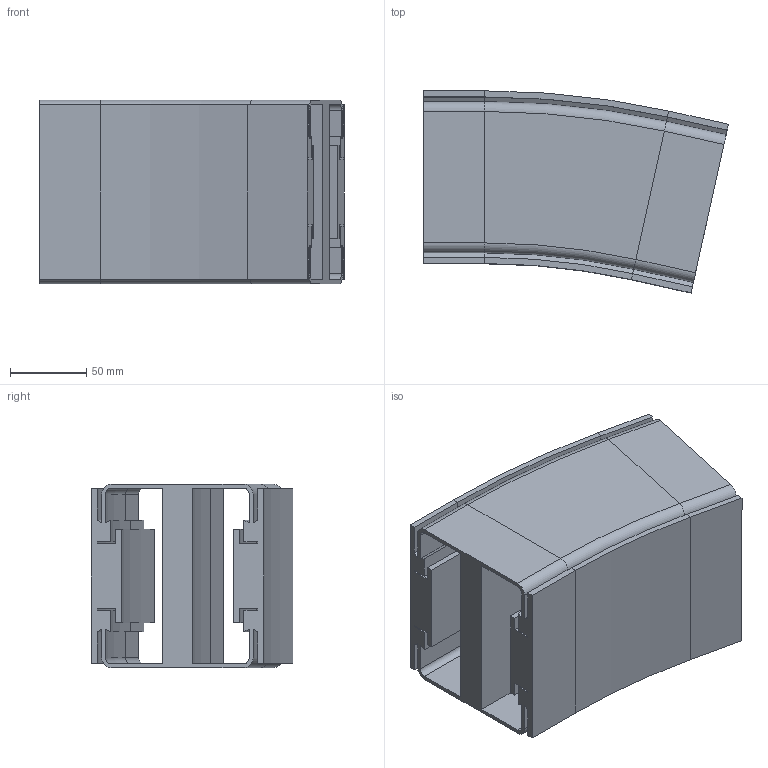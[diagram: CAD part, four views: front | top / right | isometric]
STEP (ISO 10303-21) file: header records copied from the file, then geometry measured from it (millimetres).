
FILE_DESCRIPTION (( 'STEP AP214' ), '1' );
FILE_NAME ('VC.120 Verticale bochtsectie.R500 12,5.STEP', '2017-02-08T08:10:08', ( '' ), ( '' ), 'SwSTEP 2.0', 'SolidWorks 2016', '' );
FILE_SCHEMA (( 'AUTOMOTIVE_DESIGN' ));
Length unit declared in the file: millimetre
Products named in the file (1): VC.120 Verticale bochtsectie.R500 12,5
Bounding box: 199.5 x 132.17 x 120 mm (x, y, z)
Volume: 1114858.4 mm3; surface area: 281369.3 mm2
Topology: 1 solids, 1 shells, 206 faces, 476 edges, 272 vertices
Faces by surface type: plane 144, cylinder 46, cone 8, torus 8
Entity records: 5674 total; most frequent: DIRECTION 990, CARTESIAN_POINT 955, ORIENTED_EDGE 952, EDGE_CURVE 476, LINE 376, VECTOR 376, AXIS2_PLACEMENT_3D 307, VERTEX_POINT 272
